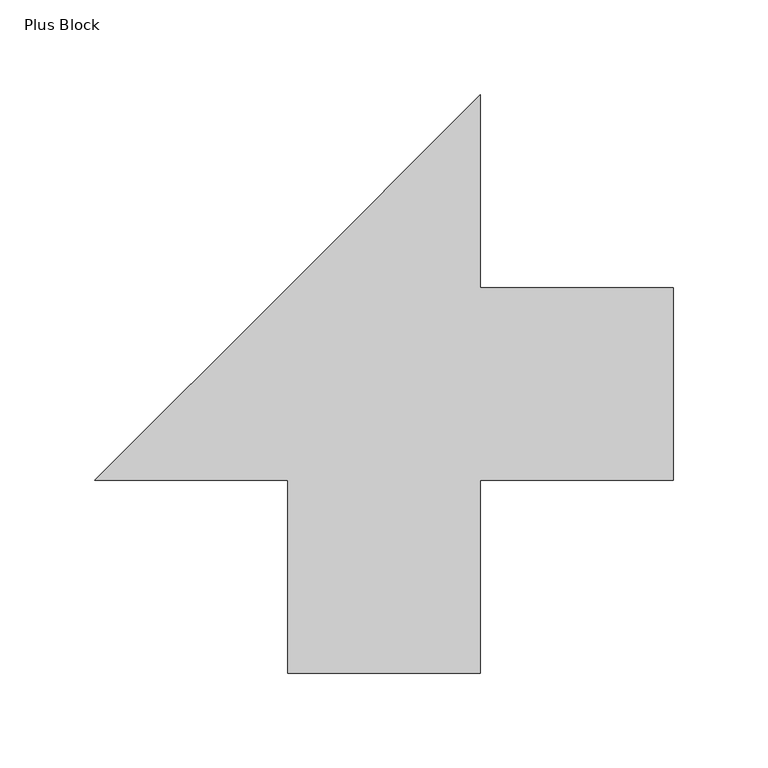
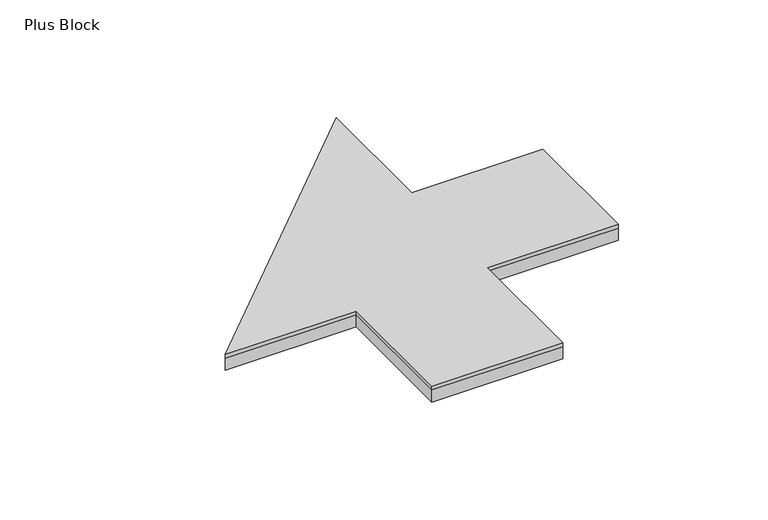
"""IFC4 building model written with IfcOpenShell, lengths in millimetres: proxy geometry, FilzFelt_Plus_Block : Plus Block."""

import ifcopenshell
import ifcopenshell.guid

model = None  # the IFC model being written
_history = None  # IfcOwnerHistory: only IFC2X3 demands one
_inside = {}  # id of a spatial element -> (the spatial element, [elements in it])
_under = {}  # id of a project, library or spatial element -> (it, [spatial elements below it])
_declared = {}  # id of a project -> (the project, [libraries it declares])
_typed = {}  # id of a type object -> (the type object, [elements of that type])
_made_of = {}  # id of a material, layer set ... -> (it, [elements and type objects made of it])


def new_model(schema):
    """Start an empty IFC model of exactly this schema.

    Asked for "IFC4X3", IfcOpenShell would pick the latest addendum, in which some entities
    have other attributes; the version numbers below select the first issue.
    IFC2X3 requires an IfcOwnerHistory on every rooted entity: one is made here for all.
    """
    global model, _history
    if schema == "IFC4X3":
        model = ifcopenshell.file(schema_version=(4, 3, 0, 0))
    else:
        model = ifcopenshell.file(schema=schema)
    _inside.clear()
    _under.clear()
    _declared.clear()
    _typed.clear()
    _made_of.clear()
    _history = None
    if model.schema == "IFC2X3":
        org = make("IfcOrganization", Name="unknown")
        user = make(
            "IfcPersonAndOrganization",
            ThePerson=make("IfcPerson", FamilyName="unknown"),
            TheOrganization=org,
        )
        app = make(
            "IfcApplication",
            ApplicationDeveloper=org,
            Version="unknown",
            ApplicationFullName="unknown",
            ApplicationIdentifier="unknown",
        )
        _history = make(
            "IfcOwnerHistory",
            OwningUser=user,
            OwningApplication=app,
            ChangeAction="ADDED",
            CreationDate=0,
        )
    return model


def make(cls, **values):
    """One entity of the class cls with the attributes given. An attribute that is None is left unset."""
    return model.create_entity(
        cls, **{name: value for name, value in values.items() if value is not None}
    )


def rooted(cls, **values):
    """An entity with a GlobalId (a new one), such as an element, a storey or a relation."""
    return make(cls, GlobalId=ifcopenshell.guid.new(), OwnerHistory=_history, **values)


def si_unit(unit_type, name, prefix=None):
    """IfcSIUnit, for example si_unit("LENGTHUNIT", "METRE", prefix="MILLI")."""
    return make("IfcSIUnit", UnitType=unit_type, Prefix=prefix, Name=name)


def assignment(units):
    """IfcUnitAssignment: the units of a project."""
    return None if units is None else make("IfcUnitAssignment", Units=units)


def point(xyz):
    """IfcCartesianPoint."""
    return None if xyz is None else make("IfcCartesianPoint", Coordinates=xyz)


def direction(xyz):
    """IfcDirection."""
    return None if xyz is None else make("IfcDirection", DirectionRatios=xyz)


def frame(location, z_axis=None, x_axis=None):
    """IfcAxis2Placement3D, a coordinate frame: its origin and axes. An axis left out is left unset."""
    return make(
        "IfcAxis2Placement3D",
        Location=point(location),
        Axis=direction(z_axis),
        RefDirection=direction(x_axis),
    )


def origin():
    """The frame at (0, 0, 0) with its axes left unset."""
    return frame((0.0, 0.0, 0.0))


def place(relative_to, where):
    """IfcLocalPlacement: puts the frame where relative to a parent placement (None: the world)."""
    return make(
        "IfcLocalPlacement", PlacementRelTo=relative_to, RelativePlacement=where
    )


def context(
    kind, dimensions, precision=None, world=None, true_north=None, identifier=None
):
    """IfcGeometricRepresentationContext, for example the 3D "Model" context."""
    return make(
        "IfcGeometricRepresentationContext",
        ContextIdentifier=identifier,
        ContextType=kind,
        CoordinateSpaceDimension=dimensions,
        Precision=precision,
        WorldCoordinateSystem=world,
        TrueNorth=true_north,
    )


def project(units=None, contexts=None):
    """IfcProject with its units and contexts."""
    return rooted(
        "IfcProject",
        Name="project",
        RepresentationContexts=contexts,
        UnitsInContext=assignment(units),
    )


def spatial(cls, under=None, at=None, **own):
    """A site, building, storey or space (cls), placed at a placement, below another one or the project."""
    s = rooted(cls, ObjectPlacement=at, **own)
    if under is not None:
        _under.setdefault(under.id(), (under, []))[1].append(s)
    return s


def faces_of(points, faces, orient=None, outer=None):
    """IfcFace entities. A face is a list of loops; a loop is a list of indices into points, from 0.

    orient and outer hold one flag for each loop. By default every Orientation is true, the
    first loop of a face is its IfcFaceOuterBound and the others are IfcFaceBound.
    """
    made = []
    for i, loops in enumerate(faces):
        bounds = []
        for j, loop in enumerate(loops):
            is_outer = j == 0 if outer is None else outer[i][j]
            bounds.append(
                make(
                    "IfcFaceOuterBound" if is_outer else "IfcFaceBound",
                    Bound=make("IfcPolyLoop", Polygon=[points[k] for k in loop]),
                    Orientation=True if orient is None else orient[i][j],
                )
            )
        made.append(make("IfcFace", Bounds=bounds))
    return made


def faceted_brep(points, faces, orient=None, outer=None, voids=None):
    """IfcFacetedBrep: a solid bounded by flat faces; with voids (closed shells), ...WithVoids."""
    shared = [point(p) for p in points]
    hull = make("IfcClosedShell", CfsFaces=faces_of(shared, faces, orient, outer))
    if voids is None:
        return make("IfcFacetedBrep", Outer=hull)
    return make(
        "IfcFacetedBrepWithVoids",
        Outer=hull,
        Voids=[
            make(cls, CfsFaces=faces_of(shared, fs, o, b)) for cls, fs, o, b in voids
        ],
    )


def shape(context_of_items, identifier, shape_type, items):
    """IfcShapeRepresentation: the items that make up one representation, for example the "Body"."""
    return make(
        "IfcShapeRepresentation",
        ContextOfItems=context_of_items,
        RepresentationIdentifier=identifier,
        RepresentationType=shape_type,
        Items=items,
    )


def source(mapping_origin, context_of_items, identifier, shape_type, items):
    """IfcRepresentationMap: a shape defined once, which mapped items show again and again."""
    return make(
        "IfcRepresentationMap",
        MappingOrigin=mapping_origin,
        MappedRepresentation=shape(context_of_items, identifier, shape_type, items),
    )


def transform(
    local_origin,
    x_axis=None,
    y_axis=None,
    z_axis=None,
    scale=None,
    scale2=None,
    scale3=None,
    uniform=True,
):
    """IfcCartesianTransformationOperator3D, or its non-uniform kind. x_axis, y_axis, z_axis: its Axis1, 2, 3."""
    if uniform:
        return make(
            "IfcCartesianTransformationOperator3D",
            Axis1=direction(x_axis),
            Axis2=direction(y_axis),
            LocalOrigin=point(local_origin),
            Scale=scale,
            Axis3=direction(z_axis),
        )
    return make(
        "IfcCartesianTransformationOperator3DnonUniform",
        Axis1=direction(x_axis),
        Axis2=direction(y_axis),
        LocalOrigin=point(local_origin),
        Scale=scale,
        Axis3=direction(z_axis),
        Scale2=scale2,
        Scale3=scale3,
    )


def mapped(mapping_source, mapping_target):
    """IfcMappedItem: shows the shape of a source again, moved by a transform."""
    return make(
        "IfcMappedItem", MappingSource=mapping_source, MappingTarget=mapping_target
    )


def made_of(thing, what):
    """Note that an element or type object is made of a material, layer set ...; save() writes the relation."""
    if what is not None:
        _made_of.setdefault(what.id(), (what, []))[1].append(thing)
    return thing


def element(
    cls,
    number,
    at=None,
    inside=None,
    cuts=None,
    type_object=None,
    material=None,
    context=None,
    identifier="Body",
    shape_type=None,
    held_by="IfcProductDefinitionShape",
    body=None,
    shapes=None,
    **own,
):
    """One element of the class cls, such as IfcWall. Its Tag is "e" and its number.

    at: its placement. inside: the storey or other place that contains it. cuts: it is an
    opening in that element (IfcRelVoidsElement). A single representation is given by context,
    identifier, shape_type and body (its items); several are given by shapes. held_by: the class
    of the entity that holds the representations. save() writes the other relations.
    """
    e = rooted(cls, Tag="e%d" % number, ObjectPlacement=at, **own)
    if body is not None:
        shapes = [shape(context, identifier, shape_type, body)]
    if shapes is not None:
        e.Representation = make(held_by, Representations=shapes)
    if inside is not None:
        _inside.setdefault(inside.id(), (inside, []))[1].append(e)
    if cuts is not None:
        rooted(
            "IfcRelVoidsElement", RelatingBuildingElement=cuts, RelatedOpeningElement=e
        )
    if type_object is not None:
        _typed.setdefault(type_object.id(), (type_object, []))[1].append(e)
    return made_of(e, material)


def aggregate(whole, parts):
    """IfcRelAggregates: a whole, such as a stair, and the parts it consists of."""
    return rooted("IfcRelAggregates", RelatingObject=whole, RelatedObjects=parts)


def save(model, path):
    """Write the relations noted so far, then the file.

    IfcRelAggregates (storeys below a building ...), IfcRelContainedInSpatialStructure (elements
    in a storey), IfcRelDefinesByType, IfcRelAssociatesMaterial and IfcRelDeclares: one each for
    every whole, place, type object, material and project.
    """
    for whole, parts in _under.values():
        aggregate(whole, parts)
    for where, things in _inside.values():
        rooted(
            "IfcRelContainedInSpatialStructure",
            RelatedElements=things,
            RelatingStructure=where,
        )
    for kind, things in _typed.values():
        rooted("IfcRelDefinesByType", RelatedObjects=things, RelatingType=kind)
    for what, things in _made_of.values():
        rooted("IfcRelAssociatesMaterial", RelatedObjects=things, RelatingMaterial=what)
    for by, libraries in _declared.values():
        rooted("IfcRelDeclares", RelatingContext=by, RelatedDefinitions=libraries)
    model.write(path)


def plus_block_b4ba28bf(model_context):
    return source(origin(), model_context, "Body", "Brep", [
        faceted_brep([(50.8333333, 50.8333333, 10.0210937), (152.5, 50.8333333, 10.0210937), (152.5, -50.8333333, 10.0210937), (50.8333333, -50.8333333, 10.0210937), (50.8333333, -152.5, 10.0210937), (-50.8333333, -152.5, 10.0210937), (-50.8333333, -50.8333333, 10.0210937), (-152.5, -50.8333333, 10.0210937), (-50.8333333, 50.8333333, 10.0210937), (50.8333333, 152.5, 10.0210937), (50.8333333, 50.8333333, 12.9976563), (50.8333333, 152.5, 12.9976563), (-50.8333333, 50.8333333, 12.9976563), (-152.5, -50.8333333, 12.9976563), (-50.8333333, -50.8333333, 12.9976563), (-50.8333333, -152.5, 12.9976563), (50.8333333, -152.5, 12.9976563), (50.8333333, -50.8333333, 12.9976563), (152.5, -50.8333333, 12.9976563), (152.5, 50.8333333, 12.9976563)], [[[0, 1, 2, 3, 4, 5, 6, 7, 8, 9]], [[10, 11, 12, 13, 14, 15, 16, 17, 18, 19]], [[1, 0, 10, 19]], [[2, 1, 19, 18]], [[3, 2, 18, 17]], [[4, 3, 17, 16]], [[5, 4, 16, 15]], [[6, 5, 15, 14]], [[7, 6, 14, 13]], [[0, 9, 11, 10]], [[8, 7, 13, 12, 11, 9]]]),
        faceted_brep([(50.8333333, 152.5, 0.0), (50.8333333, 50.8333333, 0.0), (152.5, 50.8333333, 0.0), (152.5, -50.8333333, 0.0), (50.8333333, -50.8333333, 0.0), (50.8333333, -152.5, 0.0), (-50.8333333, -152.5, 0.0), (-50.8333333, -50.8333333, 0.0), (-152.5, -50.8333333, 0.0), (-50.8333333, 50.8333333, 0.0), (-152.5, -50.8333333, 10.0210937), (-50.8333333, -50.8333333, 10.0210937), (-50.8333333, -152.5, 10.0210937), (50.8333333, -152.5, 10.0210937), (50.8333333, -50.8333333, 10.0210937), (152.5, -50.8333333, 10.0210937), (152.5, 50.8333333, 10.0210937), (50.8333333, 50.8333333, 10.0210937), (50.8333333, 152.5, 10.0210937), (-50.8333333, 50.8333333, 10.0210937)], [[[0, 1, 2, 3, 4, 5, 6, 7, 8, 9]], [[10, 11, 12, 13, 14, 15, 16, 17, 18, 19]], [[6, 5, 13, 12]], [[3, 2, 16, 15]], [[1, 0, 18, 17]], [[2, 1, 17, 16]], [[4, 3, 15, 14]], [[5, 4, 14, 13]], [[7, 6, 12, 11]], [[8, 7, 11, 10]], [[9, 8, 10, 19, 18, 0]]]),
    ])


if __name__ == "__main__":
    model = new_model("IFC4")
    model_context = context("Model", 3, world=origin())
    ifc_project = project(units=[si_unit("LENGTHUNIT", "METRE", prefix="MILLI")], contexts=[model_context])
    site = spatial("IfcSite", under=ifc_project)
    building = spatial("IfcBuilding", under=site)
    placement = place(None, origin())
    plus_block_shape = plus_block_b4ba28bf(model_context)
    element("IfcBuildingElementProxy", 1, Name="FilzFelt_Plus_Block : Plus Block", ObjectType="FilzFelt_Plus_Block : Plus Block", at=placement, inside=building, context=model_context, shape_type="MappedRepresentation", body=[
        mapped(plus_block_shape, transform((0.0, 0.0, 0.0), x_axis=(1.0, 0.0, 0.0), y_axis=(0.0, 1.0, 0.0), z_axis=(0.0, 0.0, 1.0))),
    ])
    save(model, "model.ifc")
